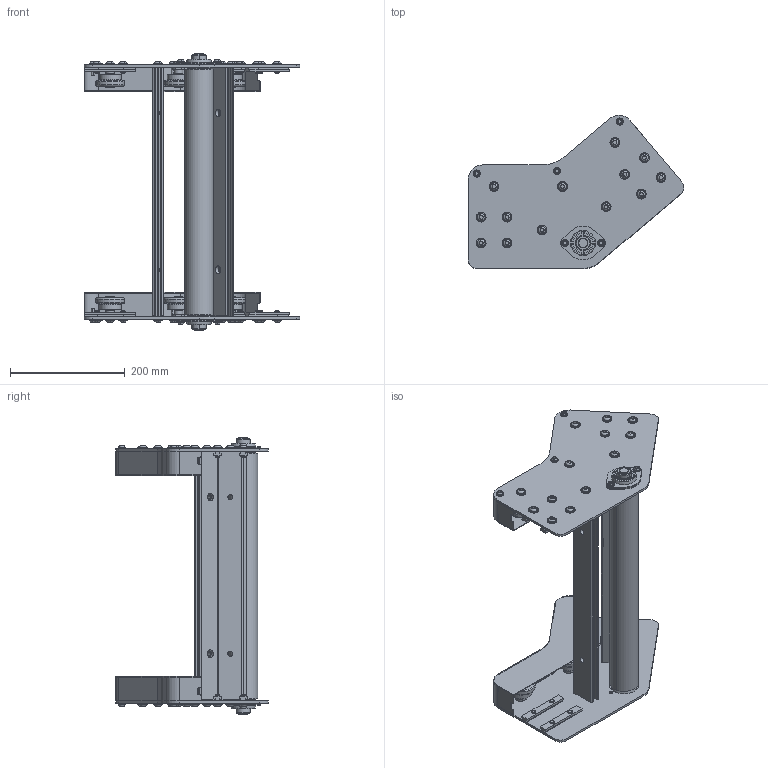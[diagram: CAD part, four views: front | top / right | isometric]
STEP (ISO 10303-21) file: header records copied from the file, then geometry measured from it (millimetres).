
FILE_DESCRIPTION (( 'STEP AP203' ), '1' );
FILE_NAME ('084.095.KA.40.400.STEP', '2019-07-30T08:34:58', ( '' ), ( '' ), 'SwSTEP 2.0', 'SolidWorks 2018', '' );
FILE_SCHEMA (( 'CONFIG_CONTROL_DESIGN' ));
Length unit declared in the file: millimetre
Products named in the file (20): 084.095.KA.400_RULLO_Default<A macchina>; 084.095.KA.400_TRAVERSA_Default<A macchina>; SBPFL 203; 084.821.102; VITI TESTA BOMBATA ISO 730 INOX_M8x16 ISO 7380 INOX; VITI TESTA BOMBATA ISO 730 INOX_M6x10 ISO 7380 INOX; VITI TESTA BOMBATA ISO 730 INOX_M8x30 ISO 7380 INOX; CUSCINETTI A SFERE_6002-2Z; circlip for shafts normal_din_PreviewCfg; RONDELLE UNI 6592_6.4x12.5 UNI 6592; 084.811.004; 084.821.103; 084.307.005; VITI TESTA BOMBATA ISO 730 INOX_M8x25 ISO 7380 INOX; VITI TESTA BOMBATA ISO 730 INOX_M6x20 ISO 7380 INOX; RONDELLE UNI 6592_8.4x17 UNI 6592; 084.821.105; 084.821.120; 084.095.KA.40.400; 084.821.121
Assembly tree (133 placements, depth 2):
  084.095.KA.40.400
    084.821.103  x6
    084.821.105  x6
    084.821.102  x6
    084.307.005  x8
    084.811.004  x2
    CUSCINETTI A SFERE_6002-2Z  x12
    SBPFL 203  x2
    circlip for shafts normal_din_PreviewCfg  x12
    VITI TESTA BOMBATA ISO 730 INOX_M8x30 ISO 7380 INOX  x6
    VITI TESTA BOMBATA ISO 730 INOX_M8x25 ISO 7380 INOX  x4
    RONDELLE UNI 6592_8.4x17 UNI 6592  x26
    VITI TESTA BOMBATA ISO 730 INOX_M8x16 ISO 7380 INOX  x16
    VITI TESTA BOMBATA ISO 730 INOX_M6x20 ISO 7380 INOX  x6
    RONDELLE UNI 6592_6.4x12.5 UNI 6592  x10
    VITI TESTA BOMBATA ISO 730 INOX_M6x10 ISO 7380 INOX  x4
    084.821.120  x2
    084.821.121  x2
    084.095.KA.400_RULLO_Default<A macchina>
    084.095.KA.400_TRAVERSA_Default<A macchina>  x2
Bounding box: 375.26 x 266.48 x 481 mm (x, y, z)
Volume: 1623483.4 mm3; surface area: 1069205.7 mm2
Topology: 141 solids, 141 shells, 2481 faces, 5757 edges, 3720 vertices
Faces by surface type: cylinder 1037, plane 1012, cone 212, torus 200, sphere 20
Entity records: 23164 total; most frequent: DIRECTION 3410, CARTESIAN_POINT 3297, ORIENTED_EDGE 2808, EDGE_CURVE 1404, AXIS2_PLACEMENT_3D 1325, VERTEX_POINT 916, VECTOR 760, LINE 760
